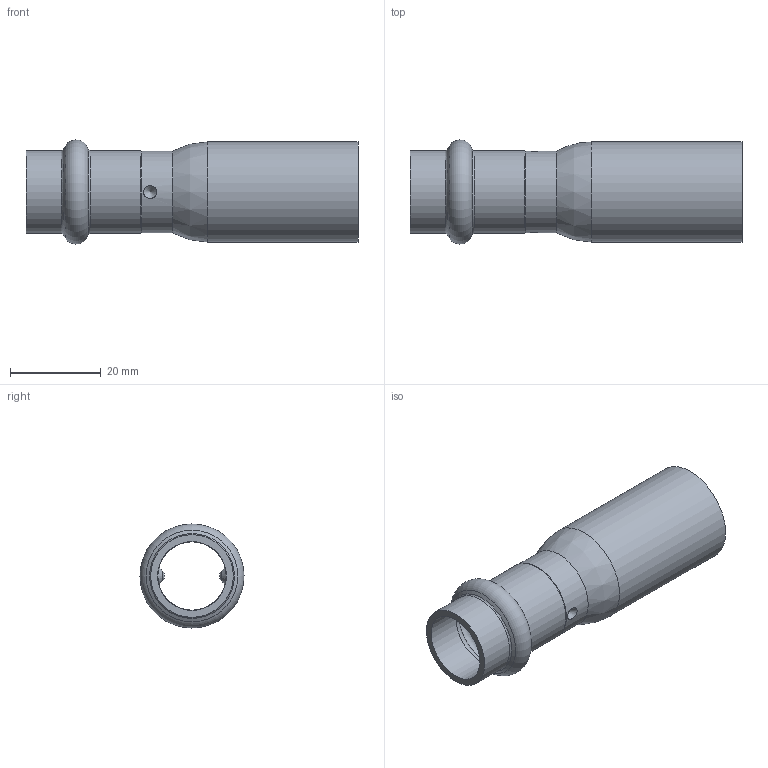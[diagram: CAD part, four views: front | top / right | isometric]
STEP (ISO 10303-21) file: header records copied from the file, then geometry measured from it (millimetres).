
FILE_DESCRIPTION((''),'2;1');
FILE_NAME('G:\Technics\CAD\Bauteile\022\692432215(1).stp','2008-02-21T13:39:45',('herberg'),(''),'Autodesk Inventor 2008','Autodesk Inventor 2008','');
FILE_SCHEMA(('AUTOMOTIVE_DESIGN { 1 0 10303 214 1 1 1 1 }'));
Length unit declared in the file: millimetre
Products named in the file (1): 692432215(1)
Bounding box: 73 x 22.9 x 22.9 mm (x, y, z)
Volume: 6720.4 mm3; surface area: 9134.9 mm2
Topology: 1 solids, 1 shells, 28 faces, 67 edges, 40 vertices
Faces by surface type: cone 8, cylinder 8, bspline 6, sphere 2, torus 2, plane 2
Full cylindrical faces by diameter (mm): 15 x1, 15.15 x2, 18 x1, 18.15 x2, 19 x1, 22 x1
Entity records: 1048 total; most frequent: CARTESIAN_POINT 553, DIRECTION 96, ORIENTED_EDGE 66, EDGE_LOOP 54, AXIS2_PLACEMENT_3D 48, EDGE_CURVE 33, VERTEX_POINT 31, FACE_OUTER_BOUND 28
